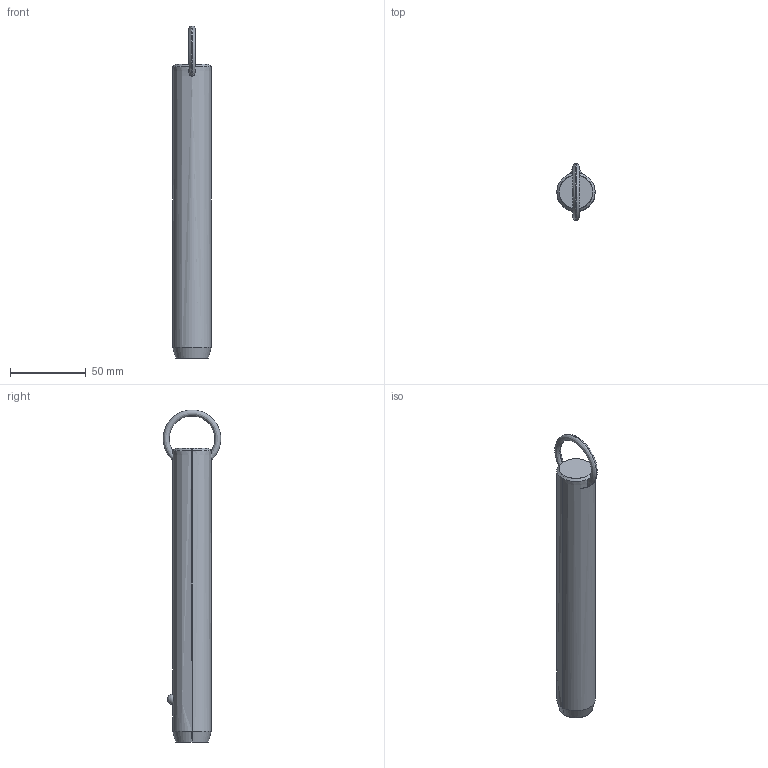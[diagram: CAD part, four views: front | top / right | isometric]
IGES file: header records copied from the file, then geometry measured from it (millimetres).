
Start section: SolidWorks IGES file using analytic representation for surfaces
Global section: file name: C:\Users\liam_\OneDrive\Documents\WORK\Work for WixRoyd\Job Files\J-00019 - Matt Davis CAD Checking\04. CAD Drawings\automotion20190605\P1250.2_v2\P1250.2_v2_20190729_IGES\P1250.100-590.igs; native system: SolidWorks 2017; preprocessor: SolidWorks 2017; author: liam_; date: 190730.174616; units: millimetre
Bounding box: 25.4 x 38.1 x 219.68 mm (x, y, z)
Surface area: 17277.8 mm2 (no closed solid volume)
Topology: 0 solids, 0 shells, 12 faces, 298 edges, 296 vertices
Faces by surface type: revolution 8, bspline 4
